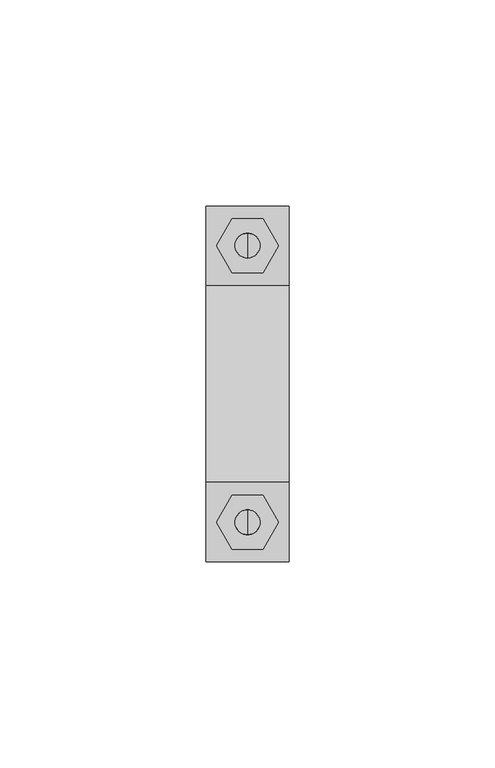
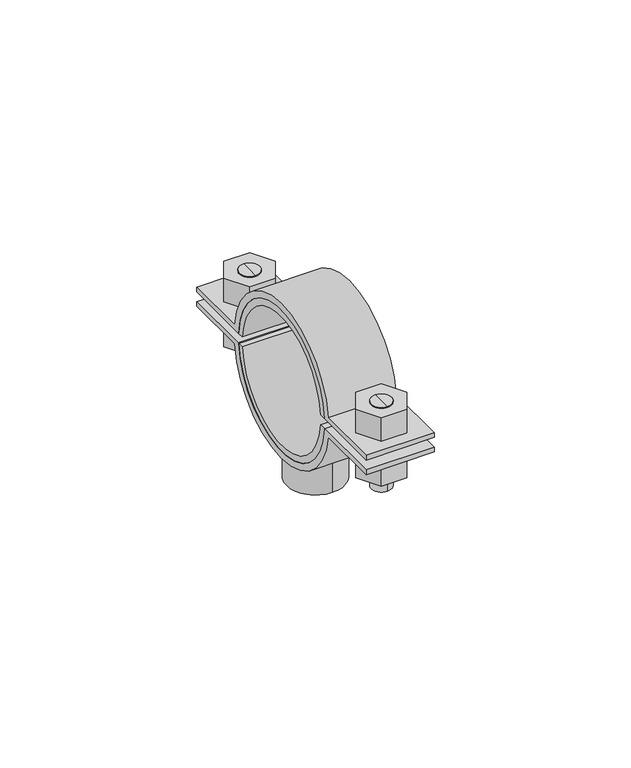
"""IFC4 building model written with IfcOpenShell, lengths in millimetres: valve geometry, Superfix DG2 Clamp (based on pipe) : Superfix DG2 Clamp (based on pipe)."""

from ifc_helpers import new_model, si_unit, point, frame, frame_2d, origin, origin_2d, place, context, project, spatial, polyline, circle_curve, trimmed, segment, composite_curve, outline, extrude, source, transform, mapped, element, save
from ifc_brep_helpers import plane_surface, cylinder_surface, advanced_brep


def valve_098a9345(model_context):
    return source(origin(), model_context, "Body", "SolidModel", [
        advanced_brep(
        [(0.0, 36.5, 342.9002332), (0.0, 30.5, 342.9002332), (0.0, 30.5, 357.0002332), (0.0, 36.5, 357.0002332), (0.0, 33.5, 342.9002332)],
        [
            (0, 1, circle_curve(frame((0.0, 33.5, 342.9002332), z_axis=(0.0, 0.0, 1.0), x_axis=(0.0, 1.0, 0.0)), 3.0)),
            (1, 2),
            (2, 3, circle_curve(frame((0.0, 33.5, 357.0002332), z_axis=(0.0, 0.0, -1.0), x_axis=(0.0, 1.0, 0.0)), 3.0)),
            (3, 0),
            (1, 0, circle_curve(frame((0.0, 33.5, 342.9002332), z_axis=(0.0, 0.0, 1.0), x_axis=(0.0, 1.0, 0.0)), 3.0)),
            (3, 2, circle_curve(frame((0.0, 33.5, 357.0002332), z_axis=(0.0, 0.0, -1.0), x_axis=(0.0, 1.0, 0.0)), 3.0)),
            (0, 4),
            (4, 1),
        ],
        [
            cylinder_surface(frame((0.0, 33.5, 356.7808426), z_axis=(0.0, 0.0, 1.0), x_axis=(0.0, 1.0, 0.0)), 3.0),
            plane_surface(frame((0.0, 33.5, 342.9002332), z_axis=(0.0, 0.0, -1.0), x_axis=(0.0, 1.0, 0.0))),
            plane_surface(frame((13.75, -43.0, 357.0002332), z_axis=(0.0, 0.0, 1.0), x_axis=(-1.0, 0.0, 0.0))),
        ],
        [
            (0, [[1, 2, 3, 4]]),
            (0, [[5, -4, 6, -2]]),
            (1, [[-1, 7, 8]]),
            (1, [[-5, -8, -7]]),
            (2, [[-3, -6]]),
        ],
    ),
        advanced_brep(
        [(0.0, 30.5, 369.1002332), (0.0, 36.5, 369.1002332), (0.0, 36.5, 360.0002332), (0.0, 30.5, 360.0002332), (0.0, 33.5, 369.1002332)],
        [
            (0, 1, circle_curve(frame((0.0, 33.5, 369.1002332), z_axis=(0.0, 0.0, -1.0), x_axis=(0.0, 1.0, 0.0)), 3.0)),
            (1, 2),
            (2, 3, circle_curve(frame((0.0, 33.5, 360.0002332), z_axis=(0.0, 0.0, 1.0), x_axis=(0.0, 1.0, 0.0)), 3.0)),
            (3, 0),
            (1, 0, circle_curve(frame((0.0, 33.5, 369.1002332), z_axis=(0.0, 0.0, -1.0), x_axis=(0.0, 1.0, 0.0)), 3.0)),
            (3, 2, circle_curve(frame((0.0, 33.5, 360.0002332), z_axis=(0.0, 0.0, 1.0), x_axis=(0.0, 1.0, 0.0)), 3.0)),
            (0, 4),
            (4, 1),
        ],
        [
            cylinder_surface(frame((0.0, 33.5, 356.7808426), z_axis=(0.0, 0.0, 1.0), x_axis=(0.0, 1.0, 0.0)), 3.0),
            plane_surface(frame((0.0, 33.5, 369.1002332), z_axis=(0.0, 0.0, 1.0), x_axis=(0.0, 1.0, 0.0))),
            plane_surface(frame((13.75, 43.0, 360.0002332), z_axis=(0.0, 0.0, -1.0), x_axis=(-1.0, 0.0, 0.0))),
        ],
        [
            (0, [[1, 2, 3, 4]]),
            (0, [[5, -4, 6, -2]]),
            (1, [[-1, 7, 8]]),
            (1, [[-5, -8, -7]]),
            (2, [[-3, -6]]),
        ],
    ),
        advanced_brep(
        [(0.0, -36.5, 369.1002332), (0.0, -30.5, 369.1002332), (0.0, -30.5, 360.0002332), (0.0, -36.5, 360.0002332), (0.0, -33.5, 369.1002332)],
        [
            (0, 1, circle_curve(frame((0.0, -33.5, 369.1002332), z_axis=(0.0, 0.0, -1.0), x_axis=(0.0, -1.0, 0.0)), 3.0)),
            (1, 2),
            (2, 3, circle_curve(frame((0.0, -33.5, 360.0002332), z_axis=(0.0, 0.0, 1.0), x_axis=(0.0, -1.0, 0.0)), 3.0)),
            (3, 0),
            (1, 0, circle_curve(frame((0.0, -33.5, 369.1002332), z_axis=(0.0, 0.0, -1.0), x_axis=(0.0, -1.0, 0.0)), 3.0)),
            (3, 2, circle_curve(frame((0.0, -33.5, 360.0002332), z_axis=(0.0, 0.0, 1.0), x_axis=(0.0, -1.0, 0.0)), 3.0)),
            (0, 4),
            (4, 1),
        ],
        [
            cylinder_surface(frame((0.0, -33.5, 356.7808426), z_axis=(0.0, 0.0, -1.0), x_axis=(0.0, -1.0, 0.0)), 3.0),
            plane_surface(frame((0.0, -33.5, 369.1002332), z_axis=(0.0, 0.0, 1.0), x_axis=(0.0, -1.0, 0.0))),
            plane_surface(frame((13.75, 43.0, 360.0002332), z_axis=(0.0, 0.0, -1.0), x_axis=(-1.0, 0.0, 0.0))),
        ],
        [
            (0, [[1, 2, 3, 4]]),
            (0, [[5, -4, 6, -2]]),
            (1, [[-1, 7, 8]]),
            (1, [[-5, -8, -7]]),
            (2, [[-3, -6]]),
        ],
    ),
        advanced_brep(
        [(0.0, -30.5, 342.9002332), (0.0, -36.5, 342.9002332), (0.0, -36.5, 357.0002332), (0.0, -30.5, 357.0002332), (0.0, -33.5, 342.9002332)],
        [
            (0, 1, circle_curve(frame((0.0, -33.5, 342.9002332), z_axis=(0.0, 0.0, 1.0), x_axis=(0.0, -1.0, 0.0)), 3.0)),
            (1, 2),
            (2, 3, circle_curve(frame((0.0, -33.5, 357.0002332), z_axis=(0.0, 0.0, -1.0), x_axis=(0.0, -1.0, 0.0)), 3.0)),
            (3, 0),
            (1, 0, circle_curve(frame((0.0, -33.5, 342.9002332), z_axis=(0.0, 0.0, 1.0), x_axis=(0.0, -1.0, 0.0)), 3.0)),
            (3, 2, circle_curve(frame((0.0, -33.5, 357.0002332), z_axis=(0.0, 0.0, -1.0), x_axis=(0.0, -1.0, 0.0)), 3.0)),
            (0, 4),
            (4, 1),
        ],
        [
            cylinder_surface(frame((0.0, -33.5, 356.7808426), z_axis=(0.0, 0.0, -1.0), x_axis=(0.0, -1.0, 0.0)), 3.0),
            plane_surface(frame((0.0, -33.5, 342.9002332), z_axis=(0.0, 0.0, -1.0), x_axis=(0.0, -1.0, 0.0))),
            plane_surface(frame((13.75, -43.0, 357.0002332), z_axis=(0.0, 0.0, 1.0), x_axis=(-1.0, 0.0, 0.0))),
        ],
        [
            (0, [[1, 2, 3, 4]]),
            (0, [[5, -4, 6, -2]]),
            (1, [[-1, 7, 8]]),
            (1, [[-5, -8, -7]]),
            (2, [[-3, -6]]),
        ],
    ),
        extrude(outline(composite_curve([segment(trimmed(circle_curve(frame_2d((0.0, 358.5002332)), 22.0), [point((-21.9488041, 357.0002332))], [point((21.9488041, 357.0002332))], True, "CARTESIAN"), True, "CONTINUOUS"), segment(polyline([(21.9488041, 357.0002332), (43.0, 357.0002332), (43.0, 355.5002332), (23.8117618, 355.5002332)]), True, "CONTINUOUS"), segment(trimmed(circle_curve(frame_2d((0.0, 358.5002332)), 24.0), [point((23.8117618, 355.5002332))], [point((-23.8117618, 355.5002332))], False, "CARTESIAN"), True, "CONTINUOUS"), segment(polyline([(-23.8117618, 355.5002332), (-43.0, 355.5002332), (-43.0, 357.0002332), (-21.9488041, 357.0002332)]), True, "CONTINUOUS")], self_intersect=False)), frame((-10.0, 0.0, 0.0), z_axis=(1.0, 0.0, 0.0), x_axis=(0.0, 1.0, 0.0)), (0.0, 0.0, 1.0), 20.0),
        extrude(outline(composite_curve([segment(trimmed(circle_curve(frame_2d((0.0, 358.5002332)), 22.0), [point((21.9488041, 360.0002332))], [point((-21.9488041, 360.0002332))], True, "CARTESIAN"), True, "CONTINUOUS"), segment(polyline([(-21.9488041, 360.0002332), (-43.0, 360.0002332), (-43.0, 361.5002332), (-23.8117618, 361.5002332)]), True, "CONTINUOUS"), segment(trimmed(circle_curve(frame_2d((0.0, 358.5002332)), 24.0), [point((-23.8117618, 361.5002332))], [point((23.8117618, 361.5002332))], False, "CARTESIAN"), True, "CONTINUOUS"), segment(polyline([(23.8117618, 361.5002332), (43.0, 361.5002332), (43.0, 360.0002332), (21.9488041, 360.0002332)]), True, "CONTINUOUS")], self_intersect=False)), frame((-10.0, 0.0, 0.0), z_axis=(1.0, 0.0, 0.0), x_axis=(0.0, 1.0, 0.0)), (0.0, 0.0, 1.0), 20.0),
        extrude(outline(polyline([(7.5055535, -33.5), (3.7527767, -40.0), (-3.7527767, -40.0), (-7.5055535, -33.5), (-3.7527767, -27.0), (3.7527767, -27.0), (7.5055535, -33.5)]), holes=[composite_curve([segment(trimmed(circle_curve(frame_2d((0.0, -33.5)), 3.0), [point((3.0, -33.5))], [point((-3.0, -33.5))], True, "CARTESIAN"), True, "CONTINUOUS"), segment(trimmed(circle_curve(frame_2d((0.0, -33.5)), 3.0), [point((-3.0, -33.5))], [point((3.0, -33.5))], True, "CARTESIAN"), True, "CONTINUOUS")], self_intersect=False)]), frame((0.0, 0.0, 361.5002332), z_axis=(0.0, 0.0, 1.0), x_axis=(1.0, 0.0, 0.0)), (0.0, 0.0, 1.0), 7.6),
        extrude(outline(polyline([(7.5055535, 33.5), (3.7527767, 27.0), (-3.7527767, 27.0), (-7.5055535, 33.5), (-3.7527767, 40.0), (3.7527767, 40.0), (7.5055535, 33.5)]), holes=[composite_curve([segment(trimmed(circle_curve(frame_2d((0.0, 33.5)), 3.0), [point((3.0, 33.5))], [point((-3.0, 33.5))], True, "CARTESIAN"), True, "CONTINUOUS"), segment(trimmed(circle_curve(frame_2d((0.0, 33.5)), 3.0), [point((-3.0, 33.5))], [point((3.0, 33.5))], True, "CARTESIAN"), True, "CONTINUOUS")], self_intersect=False)]), frame((0.0, 0.0, 361.5002332), z_axis=(0.0, 0.0, 1.0), x_axis=(1.0, 0.0, 0.0)), (0.0, 0.0, 1.0), 7.6),
        extrude(outline(polyline([(7.5055535, -33.5), (3.7527767, -40.0), (-3.7527767, -40.0), (-7.5055535, -33.5), (-3.7527767, -27.0), (3.7527767, -27.0), (7.5055535, -33.5)]), holes=[composite_curve([segment(trimmed(circle_curve(frame_2d((0.0, -33.5)), 3.0), [point((3.0, -33.5))], [point((-3.0, -33.5))], True, "CARTESIAN"), True, "CONTINUOUS"), segment(trimmed(circle_curve(frame_2d((0.0, -33.5)), 3.0), [point((-3.0, -33.5))], [point((3.0, -33.5))], True, "CARTESIAN"), True, "CONTINUOUS")], self_intersect=False)]), frame((0.0, 0.0, 347.9002332), z_axis=(0.0, 0.0, 1.0), x_axis=(1.0, 0.0, 0.0)), (0.0, 0.0, 1.0), 7.6),
        extrude(outline(polyline([(7.5055535, 33.5), (3.7527767, 27.0), (-3.7527767, 27.0), (-7.5055535, 33.5), (-3.7527767, 40.0), (3.7527767, 40.0), (7.5055535, 33.5)]), holes=[composite_curve([segment(trimmed(circle_curve(frame_2d((0.0, 33.5)), 3.0), [point((3.0, 33.5))], [point((-3.0, 33.5))], True, "CARTESIAN"), True, "CONTINUOUS"), segment(trimmed(circle_curve(frame_2d((0.0, 33.5)), 3.0), [point((-3.0, 33.5))], [point((3.0, 33.5))], True, "CARTESIAN"), True, "CONTINUOUS")], self_intersect=False)]), frame((0.0, 0.0, 347.9002332), z_axis=(0.0, 0.0, 1.0), x_axis=(1.0, 0.0, 0.0)), (0.0, 0.0, 1.0), 7.6),
        extrude(outline(composite_curve([segment(trimmed(circle_curve(origin_2d(), 8.5), [point((0.0, 8.5))], [point((0.0, -8.5))], False, "CARTESIAN"), True, "CONTINUOUS"), segment(trimmed(circle_curve(origin_2d(), 8.5), [point((0.0, -8.5))], [point((0.0, 8.5))], False, "CARTESIAN"), True, "CONTINUOUS")], self_intersect=False), holes=[composite_curve([segment(trimmed(circle_curve(origin_2d(), 5.0), [point((0.0, 5.0))], [point((0.0, -5.0))], True, "CARTESIAN"), True, "CONTINUOUS"), segment(trimmed(circle_curve(origin_2d(), 5.0), [point((0.0, -5.0))], [point((0.0, 5.0))], True, "CARTESIAN"), True, "CONTINUOUS")], self_intersect=False)]), frame((0.0, 0.0, 325.5002332), z_axis=(0.0, 0.0, 1.0), x_axis=(1.0, 0.0, 0.0)), (0.0, 0.0, 1.0), 11.5),
        extrude(outline(composite_curve([segment(trimmed(circle_curve(frame_2d((0.0, 358.5002332)), 20.0), [point((19.9436707, 360.0002332))], [point((-19.9436707, 360.0002332))], True, "CARTESIAN"), True, "CONTINUOUS"), segment(polyline([(-19.9436707, 360.0002332), (-21.9488041, 360.0002332)]), True, "CONTINUOUS"), segment(trimmed(circle_curve(frame_2d((0.0, 358.5002332)), 22.0), [point((-21.9488041, 360.0002332))], [point((21.9488041, 360.0002332))], False, "CARTESIAN"), True, "CONTINUOUS"), segment(polyline([(21.9488041, 360.0002332), (19.9436707, 360.0002332)]), True, "CONTINUOUS")], self_intersect=False)), frame((-10.0, 0.0, 0.0), z_axis=(1.0, 0.0, 0.0), x_axis=(0.0, 1.0, 0.0)), (0.0, 0.0, 1.0), 20.0),
        extrude(outline(composite_curve([segment(polyline([(19.9436707, 357.0002332), (21.9488041, 357.0002332)]), True, "CONTINUOUS"), segment(trimmed(circle_curve(frame_2d((0.0, 358.5002332)), 22.0), [point((21.9488041, 357.0002332))], [point((-21.9488041, 357.0002332))], False, "CARTESIAN"), True, "CONTINUOUS"), segment(polyline([(-21.9488041, 357.0002332), (-19.9436707, 357.0002332)]), True, "CONTINUOUS"), segment(trimmed(circle_curve(frame_2d((0.0, 358.5002332)), 20.0), [point((-19.9436707, 357.0002332))], [point((19.9436707, 357.0002332))], True, "CARTESIAN"), True, "CONTINUOUS")], self_intersect=False)), frame((-10.0, 0.0, 0.0), z_axis=(1.0, 0.0, 0.0), x_axis=(0.0, 1.0, 0.0)), (0.0, 0.0, 1.0), 20.0),
    ])


if __name__ == "__main__":
    model = new_model("IFC4")
    model_context = context("Model", 3, world=origin())
    ifc_project = project(units=[si_unit("LENGTHUNIT", "METRE", prefix="MILLI")], contexts=[model_context])
    site = spatial("IfcSite", under=ifc_project)
    building = spatial("IfcBuilding", under=site)
    placement = place(None, origin())
    valve_shape = valve_098a9345(model_context)
    element("IfcValve", 1, ObjectType="Superfix DG2 Clamp (based on pipe) : Superfix DG2 Clamp (based on pipe)", at=placement, inside=building, context=model_context, shape_type="MappedRepresentation", body=[
        mapped(valve_shape, transform((0.0, 0.0, 0.0), x_axis=(1.0, 0.0, 0.0), y_axis=(0.0, 1.0, 0.0), z_axis=(0.0, 0.0, 1.0))),
    ])
    save(model, "model.ifc")
